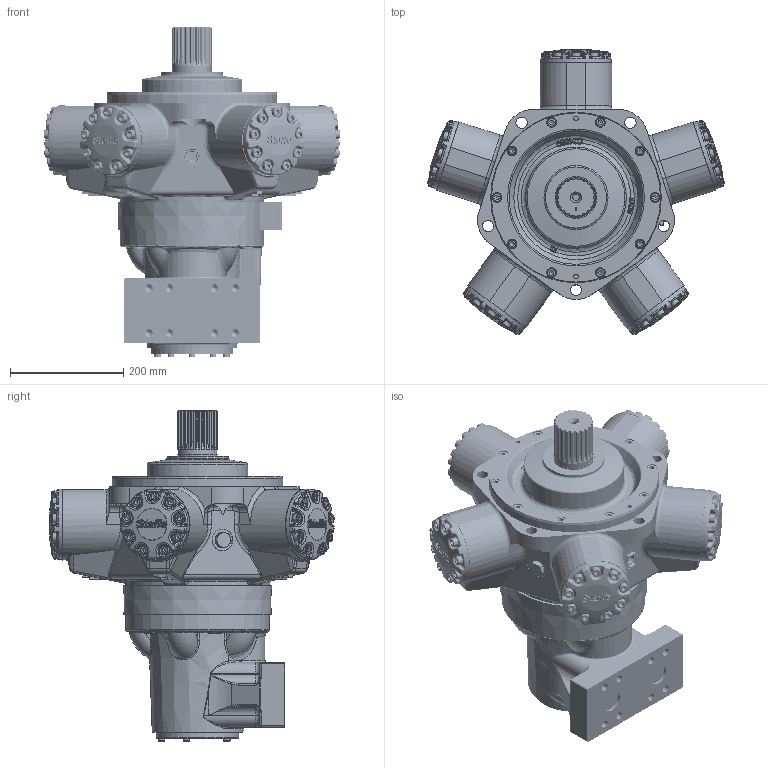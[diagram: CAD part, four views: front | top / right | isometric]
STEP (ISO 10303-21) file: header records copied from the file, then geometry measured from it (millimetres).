
FILE_DESCRIPTION(/* description */ (''),/* implementation_level */ '2;1');
FILE_NAME(/* name */ 'HMC080_Z_SFM4_X.stp',/* time_stamp */ '2025-03-28T11:02:19Z',/* author */ ('ccallanga'),/* organization */ (''),/* preprocessor_version */ 'ST-DEVELOPER v20',/* originating_system */ 'Autodesk Inventor 2024',/* authorisation */ '');
FILE_SCHEMA (('AUTOMOTIVE_DESIGN { 1 0 10303 214 3 1 1 }'));
Products named in the file (1): HMC080 WEBSITE ASSEMBLY_Simplify_1
Bounding box: 524.44 x 502.42 x 583.7 mm (x, y, z)
Volume: 33027373.7 mm3; surface area: 975114.8 mm2
Topology: 1 solids, 1 shells, 5179 faces, 12481 edges, 7318 vertices
Faces by surface type: bspline 1770, plane 1390, cylinder 1129, torus 547, sphere 198, cone 145
Full cylindrical faces by diameter (mm): 2.2 x4, 8.376 x2, 11.328 x1, 11.445 x2, 11.913 x5, 12.7 x5, 13.835 x8, 16 x55, 16.5 x45, 16.51 x1, 17 x10, 20 x5, 23.825 x5, 25.4 x5, 26.92 x2, 38 x2, 38.1 x3, 69.4 x1, 69.825 x1, 73.914 x1, 88.901 x1, 107.95 x1, 146.05 x1, 177.8 x1, 254 x1, 301.535 x1
Entity records: 231434 total; most frequent: CARTESIAN_POINT 118929, ORIENTED_EDGE 24522, DIRECTION 18771, EDGE_CURVE 12261, AXIS2_PLACEMENT_3D 7335, VERTEX_POINT 7318, EDGE_LOOP 5433, STYLED_ITEM 5180
